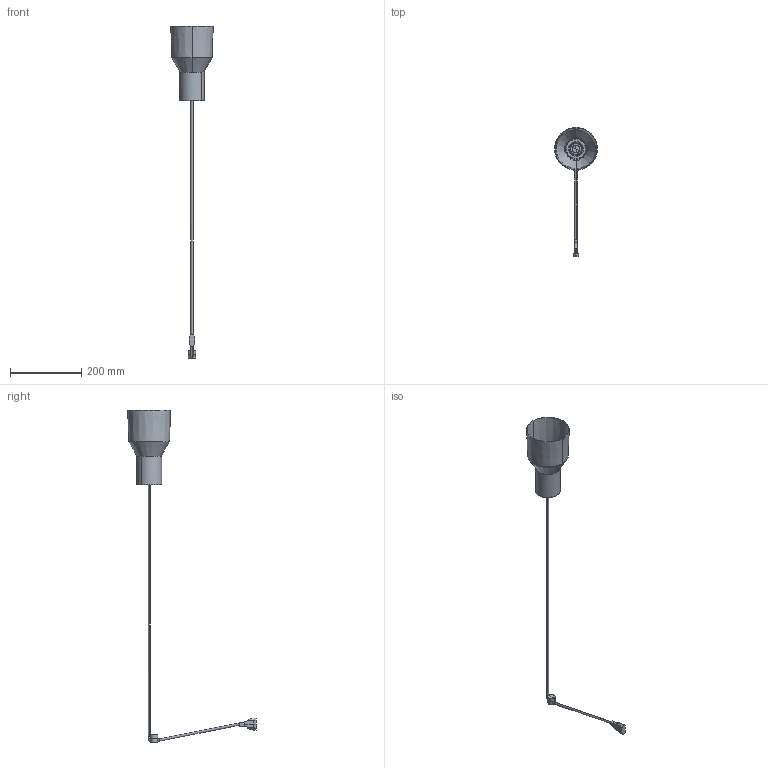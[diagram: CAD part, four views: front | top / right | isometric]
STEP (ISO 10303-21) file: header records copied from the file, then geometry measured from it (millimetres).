
FILE_DESCRIPTION(/* description */ (''),/* implementation_level */ '2;1');
FILE_NAME(/* name */ 'C:\Users\Franco Sartori E\Documents\FARO\DUPLICADO\Modelos\01_Digitalizados\2021\KOMBO\03_Publicación\68604-63_wall.stp',/* time_stamp */ '2021-02-24T09:49:50+01:00',/* author */ ('Franco Sartori E'),/* organization */ (''),/* preprocessor_version */ 'ST-DEVELOPER v18.1',/* originating_system */ 'AutoCAD Mechanical',/* authorisation */ '');
FILE_SCHEMA (('AUTOMOTIVE_DESIGN { 1 0 10303 214 3 1 1 }'));
Length unit declared in the file: millimetre
Products named in the file (5): Product; 68604_Ceiling - LH-462667-_3D_; LAMP HOLDER - LH-462606-_3D_; 68604_Wall - LH-462668-_3D_; 68592_68591_KOMBO_LAMP - KOMBO Lamp Holder-462666-_3D_
Assembly tree (4 placements, depth 2):
  Product
    68604_Ceiling - LH-462667-_3D_
    LAMP HOLDER - LH-462606-_3D_
    68604_Wall - LH-462668-_3D_
    68592_68591_KOMBO_LAMP - KOMBO Lamp Holder-462666-_3D_
Bounding box: 120 x 360 x 929.54 mm (x, y, z)
Volume: 206608.6 mm3; surface area: 307278.1 mm2
Topology: 11 solids, 13 shells, 254 faces, 602 edges, 360 vertices
Faces by surface type: plane 105, cylinder 87, cone 32, torus 30
Entity records: 8689 total; most frequent: CARTESIAN_POINT 2891, ORIENTED_EDGE 1187, DIRECTION 1182, EDGE_CURVE 600, AXIS2_PLACEMENT_3D 460, VERTEX_POINT 360, LINE 262, VECTOR 262
